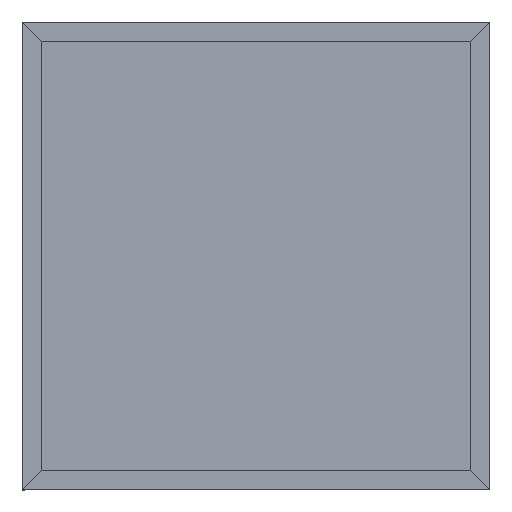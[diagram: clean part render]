
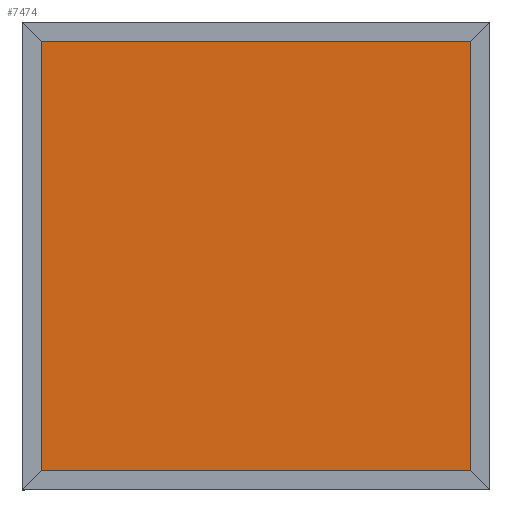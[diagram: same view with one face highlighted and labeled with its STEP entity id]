
A CAD part, front view. The second image highlights one B-rep face of the part: STEP entity #7474.
In plain terms, the highlighted planar face has unit normal (0, -1, 0).
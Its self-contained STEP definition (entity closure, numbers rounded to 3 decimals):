
#57 = DIRECTION ( 'NONE',  ( -1., 0., 0. ) ) ;
#230 = EDGE_CURVE ( 'NONE', #1374, #9932, #5592, .T. ) ;
#617 = DIRECTION ( 'NONE',  ( 0., 0., -1. ) ) ;
#1285 = AXIS2_PLACEMENT_3D ( 'NONE', #10451, #1728, #12427 ) ;
#1374 = VERTEX_POINT ( 'NONE', #4781 ) ;
#1488 = DIRECTION ( 'NONE',  ( 0., 0., 1. ) ) ;
#1728 = DIRECTION ( 'NONE',  ( 0., 1., 0. ) ) ;
#2605 = EDGE_CURVE ( 'NONE', #9932, #4322, #3322, .T. ) ;
#2621 = CARTESIAN_POINT ( 'NONE',  ( 585.2, 2.6, 25. ) ) ;
#3322 = LINE ( 'NONE', #2621, #7160 ) ;
#3614 = CARTESIAN_POINT ( 'NONE',  ( 14.8, 2.6, -585.2 ) ) ;
#3721 = CARTESIAN_POINT ( 'NONE',  ( 595., 2.6, -12.3 ) ) ;
#4322 = VERTEX_POINT ( 'NONE', #5278 ) ;
#4781 = CARTESIAN_POINT ( 'NONE',  ( 14.8, 2.6, -12.3 ) ) ;
#5278 = CARTESIAN_POINT ( 'NONE',  ( 585.2, 2.6, -585.2 ) ) ;
#5592 = LINE ( 'NONE', #3721, #6970 ) ;
#5635 = PLANE ( 'NONE',  #1285 ) ;
#6155 = ORIENTED_EDGE ( 'NONE', *, *, #2605, .F. ) ;
#6207 = CARTESIAN_POINT ( 'NONE',  ( 585.2, 2.6, -12.3 ) ) ;
#6608 = VECTOR ( 'NONE', #57, 1000. ) ;
#6970 = VECTOR ( 'NONE', #10571, 1000. ) ;
#7160 = VECTOR ( 'NONE', #617, 1000. ) ;
#7452 = VERTEX_POINT ( 'NONE', #3614 ) ;
#7474 = ADVANCED_FACE ( 'NONE', ( #8273 ), #5635, .F. ) ;
#7649 = EDGE_LOOP ( 'NONE', ( #6155, #11289, #11356, #10635 ) ) ;
#7650 = VECTOR ( 'NONE', #1488, 1000. ) ;
#7887 = LINE ( 'NONE', #11993, #6608 ) ;
#8273 = FACE_OUTER_BOUND ( 'NONE', #7649, .T. ) ;
#8477 = CARTESIAN_POINT ( 'NONE',  ( 14.8, 2.6, 25. ) ) ;
#8793 = EDGE_CURVE ( 'NONE', #7452, #1374, #10621, .T. ) ;
#9932 = VERTEX_POINT ( 'NONE', #6207 ) ;
#10451 = CARTESIAN_POINT ( 'NONE',  ( 595., 2.6, 25. ) ) ;
#10571 = DIRECTION ( 'NONE',  ( 1., 0., 0. ) ) ;
#10621 = LINE ( 'NONE', #8477, #7650 ) ;
#10635 = ORIENTED_EDGE ( 'NONE', *, *, #12430, .F. ) ;
#11289 = ORIENTED_EDGE ( 'NONE', *, *, #230, .F. ) ;
#11356 = ORIENTED_EDGE ( 'NONE', *, *, #8793, .F. ) ;
#11993 = CARTESIAN_POINT ( 'NONE',  ( 595., 2.6, -585.2 ) ) ;
#12427 = DIRECTION ( 'NONE',  ( 0., 0., 1. ) ) ;
#12430 = EDGE_CURVE ( 'NONE', #4322, #7452, #7887, .T. ) ;
